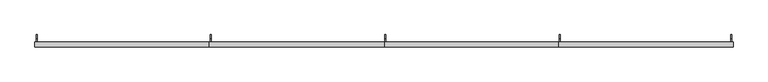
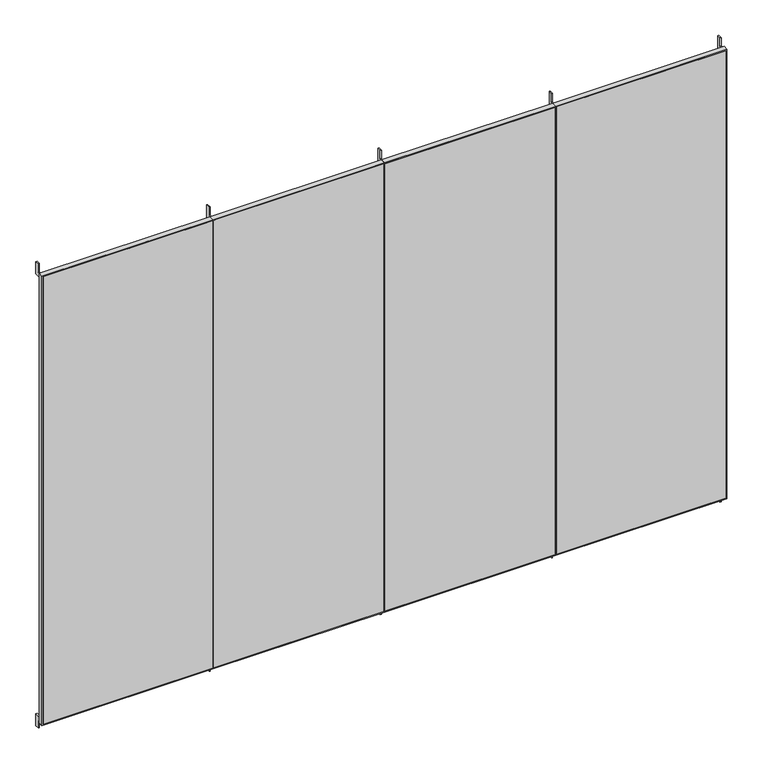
"""IFC4 building model written with IfcOpenShell, lengths in millimetres: furniture geometry, H04 Protección 4 módulos : H4.1 Protección 4 módulos 450x315."""

import ifcopenshell
import ifcopenshell.guid

model = None  # the IFC model being written
_history = None  # IfcOwnerHistory: only IFC2X3 demands one
_inside = {}  # id of a spatial element -> (the spatial element, [elements in it])
_under = {}  # id of a project, library or spatial element -> (it, [spatial elements below it])
_declared = {}  # id of a project -> (the project, [libraries it declares])
_typed = {}  # id of a type object -> (the type object, [elements of that type])
_made_of = {}  # id of a material, layer set ... -> (it, [elements and type objects made of it])


def new_model(schema):
    """Start an empty IFC model of exactly this schema.

    Asked for "IFC4X3", IfcOpenShell would pick the latest addendum, in which some entities
    have other attributes; the version numbers below select the first issue.
    IFC2X3 requires an IfcOwnerHistory on every rooted entity: one is made here for all.
    """
    global model, _history
    if schema == "IFC4X3":
        model = ifcopenshell.file(schema_version=(4, 3, 0, 0))
    else:
        model = ifcopenshell.file(schema=schema)
    _inside.clear()
    _under.clear()
    _declared.clear()
    _typed.clear()
    _made_of.clear()
    _history = None
    if model.schema == "IFC2X3":
        org = make("IfcOrganization", Name="unknown")
        user = make(
            "IfcPersonAndOrganization",
            ThePerson=make("IfcPerson", FamilyName="unknown"),
            TheOrganization=org,
        )
        app = make(
            "IfcApplication",
            ApplicationDeveloper=org,
            Version="unknown",
            ApplicationFullName="unknown",
            ApplicationIdentifier="unknown",
        )
        _history = make(
            "IfcOwnerHistory",
            OwningUser=user,
            OwningApplication=app,
            ChangeAction="ADDED",
            CreationDate=0,
        )
    return model


def make(cls, **values):
    """One entity of the class cls with the attributes given. An attribute that is None is left unset."""
    return model.create_entity(
        cls, **{name: value for name, value in values.items() if value is not None}
    )


def rooted(cls, **values):
    """An entity with a GlobalId (a new one), such as an element, a storey or a relation."""
    return make(cls, GlobalId=ifcopenshell.guid.new(), OwnerHistory=_history, **values)


def si_unit(unit_type, name, prefix=None):
    """IfcSIUnit, for example si_unit("LENGTHUNIT", "METRE", prefix="MILLI")."""
    return make("IfcSIUnit", UnitType=unit_type, Prefix=prefix, Name=name)


def assignment(units):
    """IfcUnitAssignment: the units of a project."""
    return None if units is None else make("IfcUnitAssignment", Units=units)


def point(xyz):
    """IfcCartesianPoint."""
    return None if xyz is None else make("IfcCartesianPoint", Coordinates=xyz)


def direction(xyz):
    """IfcDirection."""
    return None if xyz is None else make("IfcDirection", DirectionRatios=xyz)


def frame(location, z_axis=None, x_axis=None):
    """IfcAxis2Placement3D, a coordinate frame: its origin and axes. An axis left out is left unset."""
    return make(
        "IfcAxis2Placement3D",
        Location=point(location),
        Axis=direction(z_axis),
        RefDirection=direction(x_axis),
    )


def origin():
    """The frame at (0, 0, 0) with its axes left unset."""
    return frame((0.0, 0.0, 0.0))


def place(relative_to, where):
    """IfcLocalPlacement: puts the frame where relative to a parent placement (None: the world)."""
    return make(
        "IfcLocalPlacement", PlacementRelTo=relative_to, RelativePlacement=where
    )


def context(
    kind, dimensions, precision=None, world=None, true_north=None, identifier=None
):
    """IfcGeometricRepresentationContext, for example the 3D "Model" context."""
    return make(
        "IfcGeometricRepresentationContext",
        ContextIdentifier=identifier,
        ContextType=kind,
        CoordinateSpaceDimension=dimensions,
        Precision=precision,
        WorldCoordinateSystem=world,
        TrueNorth=true_north,
    )


def project(units=None, contexts=None):
    """IfcProject with its units and contexts."""
    return rooted(
        "IfcProject",
        Name="project",
        RepresentationContexts=contexts,
        UnitsInContext=assignment(units),
    )


def spatial(cls, under=None, at=None, **own):
    """A site, building, storey or space (cls), placed at a placement, below another one or the project."""
    s = rooted(cls, ObjectPlacement=at, **own)
    if under is not None:
        _under.setdefault(under.id(), (under, []))[1].append(s)
    return s


def polyline(points):
    """IfcPolyline through the points."""
    return make("IfcPolyline", Points=[point(p) for p in points])


def outline(outer, holes=None, kind="AREA"):
    """IfcArbitraryClosedProfileDef: a profile drawn as a closed curve; with holes, ...WithVoids."""
    if holes is None:
        return make("IfcArbitraryClosedProfileDef", ProfileType=kind, OuterCurve=outer)
    return make(
        "IfcArbitraryProfileDefWithVoids",
        ProfileType=kind,
        OuterCurve=outer,
        InnerCurves=holes,
    )


def extrude(swept, where, along, depth):
    """IfcExtrudedAreaSolid: the profile swept, set in the frame where, extruded along a direction by depth."""
    return make(
        "IfcExtrudedAreaSolid",
        SweptArea=swept,
        Position=where,
        ExtrudedDirection=direction(along),
        Depth=depth,
    )


def shape(context_of_items, identifier, shape_type, items):
    """IfcShapeRepresentation: the items that make up one representation, for example the "Body"."""
    return make(
        "IfcShapeRepresentation",
        ContextOfItems=context_of_items,
        RepresentationIdentifier=identifier,
        RepresentationType=shape_type,
        Items=items,
    )


def source(mapping_origin, context_of_items, identifier, shape_type, items):
    """IfcRepresentationMap: a shape defined once, which mapped items show again and again."""
    return make(
        "IfcRepresentationMap",
        MappingOrigin=mapping_origin,
        MappedRepresentation=shape(context_of_items, identifier, shape_type, items),
    )


def transform(
    local_origin,
    x_axis=None,
    y_axis=None,
    z_axis=None,
    scale=None,
    scale2=None,
    scale3=None,
    uniform=True,
):
    """IfcCartesianTransformationOperator3D, or its non-uniform kind. x_axis, y_axis, z_axis: its Axis1, 2, 3."""
    if uniform:
        return make(
            "IfcCartesianTransformationOperator3D",
            Axis1=direction(x_axis),
            Axis2=direction(y_axis),
            LocalOrigin=point(local_origin),
            Scale=scale,
            Axis3=direction(z_axis),
        )
    return make(
        "IfcCartesianTransformationOperator3DnonUniform",
        Axis1=direction(x_axis),
        Axis2=direction(y_axis),
        LocalOrigin=point(local_origin),
        Scale=scale,
        Axis3=direction(z_axis),
        Scale2=scale2,
        Scale3=scale3,
    )


def mapped(mapping_source, mapping_target):
    """IfcMappedItem: shows the shape of a source again, moved by a transform."""
    return make(
        "IfcMappedItem", MappingSource=mapping_source, MappingTarget=mapping_target
    )


def made_of(thing, what):
    """Note that an element or type object is made of a material, layer set ...; save() writes the relation."""
    if what is not None:
        _made_of.setdefault(what.id(), (what, []))[1].append(thing)
    return thing


def element(
    cls,
    number,
    at=None,
    inside=None,
    cuts=None,
    type_object=None,
    material=None,
    context=None,
    identifier="Body",
    shape_type=None,
    held_by="IfcProductDefinitionShape",
    body=None,
    shapes=None,
    **own,
):
    """One element of the class cls, such as IfcWall. Its Tag is "e" and its number.

    at: its placement. inside: the storey or other place that contains it. cuts: it is an
    opening in that element (IfcRelVoidsElement). A single representation is given by context,
    identifier, shape_type and body (its items); several are given by shapes. held_by: the class
    of the entity that holds the representations. save() writes the other relations.
    """
    e = rooted(cls, Tag="e%d" % number, ObjectPlacement=at, **own)
    if body is not None:
        shapes = [shape(context, identifier, shape_type, body)]
    if shapes is not None:
        e.Representation = make(held_by, Representations=shapes)
    if inside is not None:
        _inside.setdefault(inside.id(), (inside, []))[1].append(e)
    if cuts is not None:
        rooted(
            "IfcRelVoidsElement", RelatingBuildingElement=cuts, RelatedOpeningElement=e
        )
    if type_object is not None:
        _typed.setdefault(type_object.id(), (type_object, []))[1].append(e)
    return made_of(e, material)


def aggregate(whole, parts):
    """IfcRelAggregates: a whole, such as a stair, and the parts it consists of."""
    return rooted("IfcRelAggregates", RelatingObject=whole, RelatedObjects=parts)


def save(model, path):
    """Write the relations noted so far, then the file.

    IfcRelAggregates (storeys below a building ...), IfcRelContainedInSpatialStructure (elements
    in a storey), IfcRelDefinesByType, IfcRelAssociatesMaterial and IfcRelDeclares: one each for
    every whole, place, type object, material and project.
    """
    for whole, parts in _under.values():
        aggregate(whole, parts)
    for where, things in _inside.values():
        rooted(
            "IfcRelContainedInSpatialStructure",
            RelatedElements=things,
            RelatingStructure=where,
        )
    for kind, things in _typed.values():
        rooted("IfcRelDefinesByType", RelatedObjects=things, RelatingType=kind)
    for what, things in _made_of.values():
        rooted("IfcRelAssociatesMaterial", RelatedObjects=things, RelatingMaterial=what)
    for by, libraries in _declared.values():
        rooted("IfcRelDeclares", RelatingContext=by, RelatedDefinitions=libraries)
    model.write(path)


def furniture_b563ccbc(model_context):
    return source(origin(), model_context, "Body", "SweptSolid", [
        extrude(outline(polyline([(3100.0, 44.7003264), (3100.0, -1055.2996736), (50.0, -1055.2996736), (50.0, 44.7003264), (3100.0, 44.7003264)]), holes=[polyline([(3093.0, 41.2003264), (57.0, 41.2003264), (57.0, -1051.7996736), (3093.0, -1051.7996736), (3093.0, 41.2003264)])]), frame((0.0, -600.0, 0.0), z_axis=(0.0, 1.0, 0.0), x_axis=(0.0, 0.0, 1.0)), (0.0, 0.0, 1.0), 32.0),
        extrude(outline(polyline([(2237.7003264, -600.0), (1148.2003264, -600.0), (1148.2003264, -597.0), (2237.7003264, -597.0), (2237.7003264, -600.0)])), frame((0.0, 0.0, 57.0), z_axis=(0.0, 0.0, 1.0), x_axis=(1.0, 0.0, 0.0)), (0.0, 0.0, 1.0), 3036.0),
        extrude(outline(polyline([(3100.0, 2244.7003264), (3100.0, 1144.7003264), (50.0, 1144.7003264), (50.0, 2244.7003264), (3100.0, 2244.7003264)]), holes=[polyline([(3093.0, 2237.7003264), (57.0, 2237.7003264), (57.0, 1148.2003264), (3093.0, 1148.2003264), (3093.0, 2237.7003264)])]), frame((0.0, -600.0, 0.0), z_axis=(0.0, 1.0, 0.0), x_axis=(0.0, 0.0, 1.0)), (0.0, 0.0, 1.0), 32.0),
        extrude(outline(polyline([(1141.2003264, -600.0), (48.2003264, -600.0), (48.2003264, -597.0), (1141.2003264, -597.0), (1141.2003264, -600.0)])), frame((0.0, 0.0, 57.0), z_axis=(0.0, 0.0, 1.0), x_axis=(1.0, 0.0, 0.0)), (0.0, 0.0, 1.0), 3036.0),
        extrude(outline(polyline([(3100.0, 1144.7003264), (3100.0, 44.7003264), (50.0, 44.7003264), (50.0, 1144.7003264), (3100.0, 1144.7003264)]), holes=[polyline([(3093.0, 1141.2003264), (57.0, 1141.2003264), (57.0, 48.2003264), (3093.0, 48.2003264), (3093.0, 1141.2003264)])]), frame((0.0, -600.0, 0.0), z_axis=(0.0, 1.0, 0.0), x_axis=(0.0, 0.0, 1.0)), (0.0, 0.0, 1.0), 32.0),
        extrude(outline(polyline([(41.2003264, -600.0), (-1051.7996736, -600.0), (-1051.7996736, -597.0), (41.2003264, -597.0), (41.2003264, -600.0)])), frame((0.0, 0.0, 57.0), z_axis=(0.0, 0.0, 1.0), x_axis=(1.0, 0.0, 0.0)), (0.0, 0.0, 1.0), 3036.0),
        extrude(outline(polyline([(-1058.7996736, -600.0), (-2148.2996736, -600.0), (-2148.2996736, -597.0), (-1058.7996736, -597.0), (-1058.7996736, -600.0)])), frame((0.0, 0.0, 57.0), z_axis=(0.0, 0.0, 1.0), x_axis=(1.0, 0.0, 0.0)), (0.0, 0.0, 1.0), 3036.0),
        extrude(outline(polyline([(3100.0, -1055.2996736), (3100.0, -2155.2996736), (50.0, -2155.2996736), (50.0, -1055.2996736), (3100.0, -1055.2996736)]), holes=[polyline([(3093.0, -1058.7996736), (57.0, -1058.7996736), (57.0, -2148.2996736), (3093.0, -2148.2996736), (3093.0, -1058.7996736)])]), frame((0.0, -600.0, 0.0), z_axis=(0.0, 1.0, 0.0), x_axis=(0.0, 0.0, 1.0)), (0.0, 0.0, 1.0), 32.0),
        extrude(outline(polyline([(-522.0, 3068.0), (-597.0, 3068.0), (-597.0, 3093.0), (-547.0, 3093.0), (-547.0, 3150.0), (-522.0, 3150.0), (-522.0, 3068.0)])), frame((-2148.2996736, 0.0, 0.0), z_axis=(1.0, 0.0, 0.0), x_axis=(0.0, 1.0, 0.0)), (0.0, 0.0, 1.0), 7.0),
        extrude(outline(polyline([(-522.0, 3068.0), (-597.0, 3068.0), (-597.0, 3093.0), (-547.0, 3093.0), (-547.0, 3150.0), (-522.0, 3150.0), (-522.0, 3068.0)])), frame((-1051.7996736, 0.0, 0.0), z_axis=(1.0, 0.0, 0.0), x_axis=(0.0, 1.0, 0.0)), (0.0, 0.0, 1.0), 7.0),
        extrude(outline(polyline([(-522.0, 3068.0), (-597.0, 3068.0), (-597.0, 3093.0), (-547.0, 3093.0), (-547.0, 3150.0), (-522.0, 3150.0), (-522.0, 3068.0)])), frame((2230.7003264, 0.0, 0.0), z_axis=(1.0, 0.0, 0.0), x_axis=(0.0, 1.0, 0.0)), (0.0, 0.0, 1.0), 7.0),
        extrude(outline(polyline([(-522.0, 3068.0), (-597.0, 3068.0), (-597.0, 3093.0), (-547.0, 3093.0), (-547.0, 3150.0), (-522.0, 3150.0), (-522.0, 3068.0)])), frame((1148.2003264, 0.0, 0.0), z_axis=(1.0, 0.0, 0.0), x_axis=(0.0, 1.0, 0.0)), (0.0, 0.0, 1.0), 7.0),
        extrude(outline(polyline([(-522.0, 82.0), (-522.0, 0.0), (-547.0, 0.0), (-547.0, 57.0), (-597.0, 57.0), (-597.0, 82.0), (-522.0, 82.0)])), frame((2230.7003264, 0.0, 0.0), z_axis=(1.0, 0.0, 0.0), x_axis=(0.0, 1.0, 0.0)), (0.0, 0.0, 1.0), 7.0),
        extrude(outline(polyline([(-522.0, 82.0), (-522.0, 0.0), (-547.0, 0.0), (-547.0, 57.0), (-597.0, 57.0), (-597.0, 82.0), (-522.0, 82.0)])), frame((1148.2003264, 0.0, 0.0), z_axis=(1.0, 0.0, 0.0), x_axis=(0.0, 1.0, 0.0)), (0.0, 0.0, 1.0), 7.0),
        extrude(outline(polyline([(-522.0, 82.0), (-522.0, 0.0), (-547.0, 0.0), (-547.0, 57.0), (-597.0, 57.0), (-597.0, 82.0), (-522.0, 82.0)])), frame((-2148.2996736, 0.0, 0.0), z_axis=(1.0, 0.0, 0.0), x_axis=(0.0, 1.0, 0.0)), (0.0, 0.0, 1.0), 7.0),
        extrude(outline(polyline([(-522.0, 82.0), (-522.0, 0.0), (-547.0, 0.0), (-547.0, 57.0), (-597.0, 57.0), (-597.0, 82.0), (-522.0, 82.0)])), frame((-1051.7996736, 0.0, 0.0), z_axis=(1.0, 0.0, 0.0), x_axis=(0.0, 1.0, 0.0)), (0.0, 0.0, 1.0), 7.0),
        extrude(outline(polyline([(-522.0, 3068.0), (-597.0, 3068.0), (-597.0, 3093.0), (-547.0, 3093.0), (-547.0, 3150.0), (-522.0, 3150.0), (-522.0, 3068.0)])), frame((48.2003264, 0.0, 0.0), z_axis=(1.0, 0.0, 0.0), x_axis=(0.0, 1.0, 0.0)), (0.0, 0.0, 1.0), 7.0),
        extrude(outline(polyline([(-522.0, 82.0), (-522.0, 0.0), (-547.0, 0.0), (-547.0, 57.0), (-597.0, 57.0), (-597.0, 82.0), (-522.0, 82.0)])), frame((48.2003264, 0.0, 0.0), z_axis=(1.0, 0.0, 0.0), x_axis=(0.0, 1.0, 0.0)), (0.0, 0.0, 1.0), 7.0),
    ])


if __name__ == "__main__":
    model = new_model("IFC4")
    model_context = context("Model", 3, world=origin())
    ifc_project = project(units=[si_unit("LENGTHUNIT", "METRE", prefix="MILLI")], contexts=[model_context])
    site = spatial("IfcSite", under=ifc_project)
    building = spatial("IfcBuilding", under=site)
    placement = place(None, origin())
    furniture_shape = furniture_b563ccbc(model_context)
    element("IfcFurniture", 1, ObjectType="H04 Protección 4 módulos : H4.1 Protección 4 módulos 450x315", at=placement, inside=building, context=model_context, shape_type="MappedRepresentation", body=[
        mapped(furniture_shape, transform((0.0, 0.0, 0.0), x_axis=(1.0, 0.0, 0.0), y_axis=(0.0, 1.0, 0.0), z_axis=(0.0, 0.0, 1.0))),
    ])
    save(model, "model.ifc")
